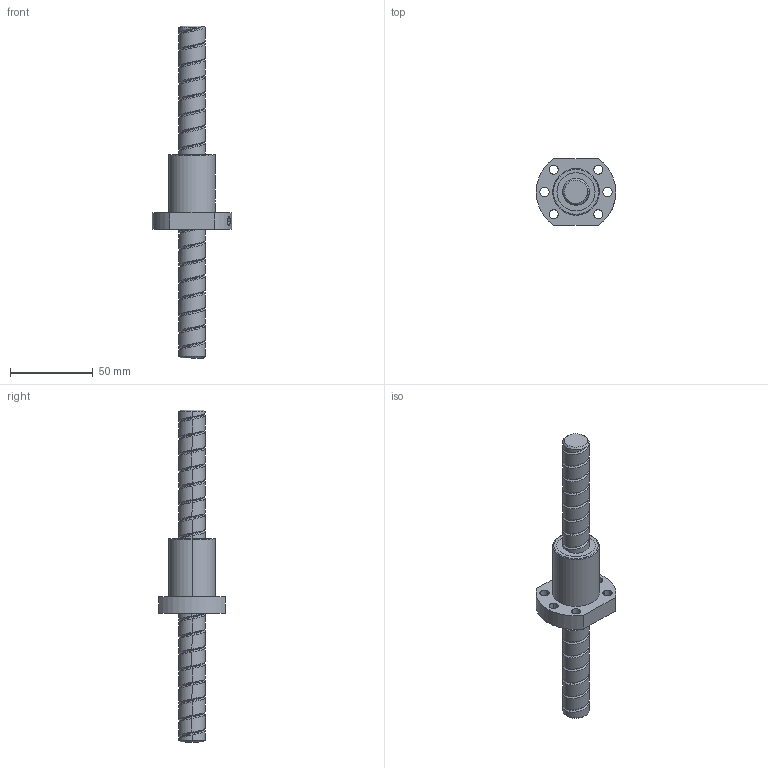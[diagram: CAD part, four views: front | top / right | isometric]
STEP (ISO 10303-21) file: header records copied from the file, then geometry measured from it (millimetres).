
FILE_DESCRIPTION (( 'STEP AP214' ), '1' );
FILE_NAME ('SFU1610-C-SFU1610.STEP', '2025-04-25T12:44:06', ( '' ), ( '' ), 'SwSTEP 2.0', 'SolidWorks 2019', '' );
FILE_SCHEMA (( 'AUTOMOTIVE_DESIGN' ));
Length unit declared in the file: millimetre
Products named in the file (3): C-SFU16; SFU1610; SFU1610-C-SFU1610
Assembly tree (2 placements, depth 2):
  SFU1610-C-SFU1610
    SFU1610
    C-SFU16
Bounding box: 48 x 40 x 200 mm (x, y, z)
Volume: 66456.6 mm3; surface area: 24466.2 mm2
Topology: 4 solids, 4 shells, 115 faces, 351 edges, 248 vertices
Faces by surface type: cylinder 91, plane 13, cone 6, bspline 3, torus 2
Entity records: 19742 total; most frequent: CARTESIAN_POINT 16657, ORIENTED_EDGE 702, DIRECTION 522, EDGE_CURVE 351, VERTEX_POINT 248, AXIS2_PLACEMENT_3D 202, EDGE_LOOP 139, LINE 118
